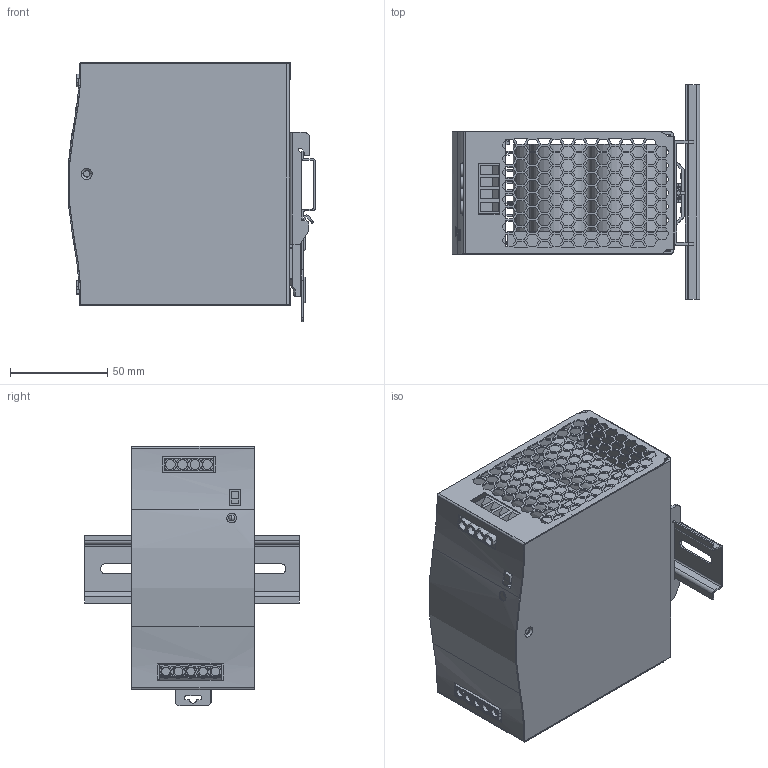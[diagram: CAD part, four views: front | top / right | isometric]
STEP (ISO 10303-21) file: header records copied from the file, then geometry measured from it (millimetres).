
FILE_DESCRIPTION(('Creo Elements/Direct Modeling STEP Export'),'2;1');
FILE_NAME('DBUF20,40.stp','2020-03-09T11:55:15',(''),(''),'PTC Creo Elements/Direct Modeling STEP processor for AP214 (Solid Model)','PTC Creo Elements/Direct Modeling 19.0E 27-Jun-2016 (C) Parametric Technology GmbH','');
FILE_SCHEMA(('AUTOMOTIVE_DESIGN { 1 0 10303 214 1 1 1 1 }'));
Length unit declared in the file: millimetre
Products named in the file (28): A; F2; F3; TS; LED; C1; PCB-A; B; F1; TB1; TB2; HS1; L型PIN.1; HS; TB1.1; CY3; c; PCB-B; 1HH2979G; 装配1; T; D; CASE; ddd; p1; p3.2; ñóÙy; 1GG2DRP14A
Assembly tree (34 placements, depth 4):
  装配1
    1HH2979G
    HS
      L型PIN.1
      HS1
    PCB-B
      c
      CY3
      TB1.1
      HS  x2
        L型PIN.1
        HS1
      TB2
      TB1
      F1
      B
    PCB-A
      C1  x8
      LED
      TS
        F3
        F2
      A
  CASE
    D
    T
  1GG2DRP14A
    ñóÙy
    p3.2
    p1
    ddd
Bounding box: 127.41 x 110.38 x 133.41 mm (x, y, z)
Volume: 419570.1 mm3; surface area: 274762.5 mm2
Topology: 32 solids, 32 shells, 2653 faces, 7445 edges, 4926 vertices
Faces by surface type: plane 2165, cylinder 406, torus 44, cone 36, bspline 2
Entity records: 200228 total; most frequent: CARTESIAN_POINT 132305, ORIENTED_EDGE 14386, DIRECTION 12691, EDGE_CURVE 7193, VECTOR 6249, LINE 6249, VERTEX_POINT 4760, AXIS2_PLACEMENT_3D 3221
